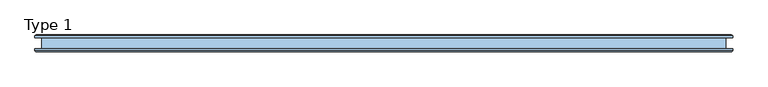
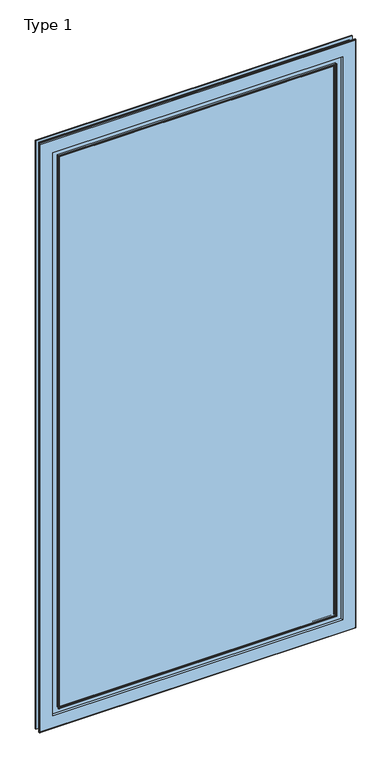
"""IFC4 building model written with IfcOpenShell, lengths in millimetres: window geometry, ETEM_ES70_Quadruple_Fly Screen_Lift_Sliding : Type 1."""

import ifcopenshell
import ifcopenshell.guid

model = None  # the IFC model being written
_history = None  # IfcOwnerHistory: only IFC2X3 demands one
_inside = {}  # id of a spatial element -> (the spatial element, [elements in it])
_under = {}  # id of a project, library or spatial element -> (it, [spatial elements below it])
_declared = {}  # id of a project -> (the project, [libraries it declares])
_typed = {}  # id of a type object -> (the type object, [elements of that type])
_made_of = {}  # id of a material, layer set ... -> (it, [elements and type objects made of it])


def new_model(schema):
    """Start an empty IFC model of exactly this schema.

    Asked for "IFC4X3", IfcOpenShell would pick the latest addendum, in which some entities
    have other attributes; the version numbers below select the first issue.
    IFC2X3 requires an IfcOwnerHistory on every rooted entity: one is made here for all.
    """
    global model, _history
    if schema == "IFC4X3":
        model = ifcopenshell.file(schema_version=(4, 3, 0, 0))
    else:
        model = ifcopenshell.file(schema=schema)
    _inside.clear()
    _under.clear()
    _declared.clear()
    _typed.clear()
    _made_of.clear()
    _history = None
    if model.schema == "IFC2X3":
        org = make("IfcOrganization", Name="unknown")
        user = make(
            "IfcPersonAndOrganization",
            ThePerson=make("IfcPerson", FamilyName="unknown"),
            TheOrganization=org,
        )
        app = make(
            "IfcApplication",
            ApplicationDeveloper=org,
            Version="unknown",
            ApplicationFullName="unknown",
            ApplicationIdentifier="unknown",
        )
        _history = make(
            "IfcOwnerHistory",
            OwningUser=user,
            OwningApplication=app,
            ChangeAction="ADDED",
            CreationDate=0,
        )
    return model


def make(cls, **values):
    """One entity of the class cls with the attributes given. An attribute that is None is left unset."""
    return model.create_entity(
        cls, **{name: value for name, value in values.items() if value is not None}
    )


def rooted(cls, **values):
    """An entity with a GlobalId (a new one), such as an element, a storey or a relation."""
    return make(cls, GlobalId=ifcopenshell.guid.new(), OwnerHistory=_history, **values)


def si_unit(unit_type, name, prefix=None):
    """IfcSIUnit, for example si_unit("LENGTHUNIT", "METRE", prefix="MILLI")."""
    return make("IfcSIUnit", UnitType=unit_type, Prefix=prefix, Name=name)


def assignment(units):
    """IfcUnitAssignment: the units of a project."""
    return None if units is None else make("IfcUnitAssignment", Units=units)


def point(xyz):
    """IfcCartesianPoint."""
    return None if xyz is None else make("IfcCartesianPoint", Coordinates=xyz)


def direction(xyz):
    """IfcDirection."""
    return None if xyz is None else make("IfcDirection", DirectionRatios=xyz)


def frame(location, z_axis=None, x_axis=None):
    """IfcAxis2Placement3D, a coordinate frame: its origin and axes. An axis left out is left unset."""
    return make(
        "IfcAxis2Placement3D",
        Location=point(location),
        Axis=direction(z_axis),
        RefDirection=direction(x_axis),
    )


def origin():
    """The frame at (0, 0, 0) with its axes left unset."""
    return frame((0.0, 0.0, 0.0))


def place(relative_to, where):
    """IfcLocalPlacement: puts the frame where relative to a parent placement (None: the world)."""
    return make(
        "IfcLocalPlacement", PlacementRelTo=relative_to, RelativePlacement=where
    )


def context(
    kind, dimensions, precision=None, world=None, true_north=None, identifier=None
):
    """IfcGeometricRepresentationContext, for example the 3D "Model" context."""
    return make(
        "IfcGeometricRepresentationContext",
        ContextIdentifier=identifier,
        ContextType=kind,
        CoordinateSpaceDimension=dimensions,
        Precision=precision,
        WorldCoordinateSystem=world,
        TrueNorth=true_north,
    )


def project(units=None, contexts=None):
    """IfcProject with its units and contexts."""
    return rooted(
        "IfcProject",
        Name="project",
        RepresentationContexts=contexts,
        UnitsInContext=assignment(units),
    )


def spatial(cls, under=None, at=None, **own):
    """A site, building, storey or space (cls), placed at a placement, below another one or the project."""
    s = rooted(cls, ObjectPlacement=at, **own)
    if under is not None:
        _under.setdefault(under.id(), (under, []))[1].append(s)
    return s


def polyline(points):
    """IfcPolyline through the points."""
    return make("IfcPolyline", Points=[point(p) for p in points])


def ellipse_curve(where, semi_axis1, semi_axis2):
    """IfcEllipse in the frame where."""
    return make(
        "IfcEllipse", Position=where, SemiAxis1=semi_axis1, SemiAxis2=semi_axis2
    )


def outline(outer, holes=None, kind="AREA"):
    """IfcArbitraryClosedProfileDef: a profile drawn as a closed curve; with holes, ...WithVoids."""
    if holes is None:
        return make("IfcArbitraryClosedProfileDef", ProfileType=kind, OuterCurve=outer)
    return make(
        "IfcArbitraryProfileDefWithVoids",
        ProfileType=kind,
        OuterCurve=outer,
        InnerCurves=holes,
    )


def extrude(swept, where, along, depth):
    """IfcExtrudedAreaSolid: the profile swept, set in the frame where, extruded along a direction by depth."""
    return make(
        "IfcExtrudedAreaSolid",
        SweptArea=swept,
        Position=where,
        ExtrudedDirection=direction(along),
        Depth=depth,
    )


def shape(context_of_items, identifier, shape_type, items):
    """IfcShapeRepresentation: the items that make up one representation, for example the "Body"."""
    return make(
        "IfcShapeRepresentation",
        ContextOfItems=context_of_items,
        RepresentationIdentifier=identifier,
        RepresentationType=shape_type,
        Items=items,
    )


def source(mapping_origin, context_of_items, identifier, shape_type, items):
    """IfcRepresentationMap: a shape defined once, which mapped items show again and again."""
    return make(
        "IfcRepresentationMap",
        MappingOrigin=mapping_origin,
        MappedRepresentation=shape(context_of_items, identifier, shape_type, items),
    )


def transform(
    local_origin,
    x_axis=None,
    y_axis=None,
    z_axis=None,
    scale=None,
    scale2=None,
    scale3=None,
    uniform=True,
):
    """IfcCartesianTransformationOperator3D, or its non-uniform kind. x_axis, y_axis, z_axis: its Axis1, 2, 3."""
    if uniform:
        return make(
            "IfcCartesianTransformationOperator3D",
            Axis1=direction(x_axis),
            Axis2=direction(y_axis),
            LocalOrigin=point(local_origin),
            Scale=scale,
            Axis3=direction(z_axis),
        )
    return make(
        "IfcCartesianTransformationOperator3DnonUniform",
        Axis1=direction(x_axis),
        Axis2=direction(y_axis),
        LocalOrigin=point(local_origin),
        Scale=scale,
        Axis3=direction(z_axis),
        Scale2=scale2,
        Scale3=scale3,
    )


def mapped(mapping_source, mapping_target):
    """IfcMappedItem: shows the shape of a source again, moved by a transform."""
    return make(
        "IfcMappedItem", MappingSource=mapping_source, MappingTarget=mapping_target
    )


def made_of(thing, what):
    """Note that an element or type object is made of a material, layer set ...; save() writes the relation."""
    if what is not None:
        _made_of.setdefault(what.id(), (what, []))[1].append(thing)
    return thing


def element(
    cls,
    number,
    at=None,
    inside=None,
    cuts=None,
    type_object=None,
    material=None,
    context=None,
    identifier="Body",
    shape_type=None,
    held_by="IfcProductDefinitionShape",
    body=None,
    shapes=None,
    **own,
):
    """One element of the class cls, such as IfcWall. Its Tag is "e" and its number.

    at: its placement. inside: the storey or other place that contains it. cuts: it is an
    opening in that element (IfcRelVoidsElement). A single representation is given by context,
    identifier, shape_type and body (its items); several are given by shapes. held_by: the class
    of the entity that holds the representations. save() writes the other relations.
    """
    e = rooted(cls, Tag="e%d" % number, ObjectPlacement=at, **own)
    if body is not None:
        shapes = [shape(context, identifier, shape_type, body)]
    if shapes is not None:
        e.Representation = make(held_by, Representations=shapes)
    if inside is not None:
        _inside.setdefault(inside.id(), (inside, []))[1].append(e)
    if cuts is not None:
        rooted(
            "IfcRelVoidsElement", RelatingBuildingElement=cuts, RelatedOpeningElement=e
        )
    if type_object is not None:
        _typed.setdefault(type_object.id(), (type_object, []))[1].append(e)
    return made_of(e, material)


def aggregate(whole, parts):
    """IfcRelAggregates: a whole, such as a stair, and the parts it consists of."""
    return rooted("IfcRelAggregates", RelatingObject=whole, RelatedObjects=parts)


def save(model, path):
    """Write the relations noted so far, then the file.

    IfcRelAggregates (storeys below a building ...), IfcRelContainedInSpatialStructure (elements
    in a storey), IfcRelDefinesByType, IfcRelAssociatesMaterial and IfcRelDeclares: one each for
    every whole, place, type object, material and project.
    """
    for whole, parts in _under.values():
        aggregate(whole, parts)
    for where, things in _inside.values():
        rooted(
            "IfcRelContainedInSpatialStructure",
            RelatedElements=things,
            RelatingStructure=where,
        )
    for kind, things in _typed.values():
        rooted("IfcRelDefinesByType", RelatedObjects=things, RelatingType=kind)
    for what, things in _made_of.values():
        rooted("IfcRelAssociatesMaterial", RelatedObjects=things, RelatingMaterial=what)
    for by, libraries in _declared.values():
        rooted("IfcRelDeclares", RelatingContext=by, RelatedDefinitions=libraries)
    model.write(path)


def plane_surface(at):
    """IfcPlane: the flat surface through the origin of the frame at, square to its z axis."""
    return make("IfcPlane", Position=at)


def cylinder_surface(at, radius):
    """IfcCylindricalSurface: all points at the distance radius from the z axis of the frame at."""
    return make("IfcCylindricalSurface", Position=at, Radius=radius)


def revolved_surface(curve, axis_point, axis_direction):
    """IfcSurfaceOfRevolution: the curve turned about the line through axis_point along axis_direction."""
    return make(
        "IfcSurfaceOfRevolution",
        SweptCurve=make("IfcArbitraryOpenProfileDef", ProfileType="CURVE", Curve=curve),
        AxisPosition=make("IfcAxis1Placement", Location=point(axis_point), Axis=direction(axis_direction)),
    )


def advanced_brep(points, edges, surfaces, faces):
    """IfcAdvancedBrep: a solid bounded by faces that lie on surfaces and meet in shared edges.

    An edge is (start, end): straight between two places in points (the first is 0);
    or (start, end, curve); or (start, end, curve, False) where it runs against its curve.
    A face is (place in surfaces, loops), or (place, loops, False) where it looks against
    its surface's normal. A loop lists edges by number (the first is 1), with a minus sign
    where the edge is run from its end to its start. The first loop is the outer one.
    """
    corners = [point(p) for p in points]
    vertices = [make("IfcVertexPoint", VertexGeometry=c) for c in corners]
    made = []
    for start, end, *more in edges:
        made.append(
            make(
                "IfcEdgeCurve",
                EdgeStart=vertices[start],
                EdgeEnd=vertices[end],
                EdgeGeometry=more[0] if more else make("IfcPolyline", Points=[corners[start], corners[end]]),
                SameSense=more[1] if len(more) > 1 else True,
            )
        )
    hull = []
    for where, loops, *sense in faces:
        bounds = []
        for j, loop in enumerate(loops):
            ring = [make("IfcOrientedEdge", EdgeElement=made[abs(k) - 1], Orientation=k > 0) for k in loop]
            bounds.append(
                make(
                    "IfcFaceOuterBound" if j == 0 else "IfcFaceBound",
                    Bound=make("IfcEdgeLoop", EdgeList=ring),
                    Orientation=True,
                )
            )
        hull.append(make("IfcAdvancedFace", Bounds=bounds, FaceSurface=surfaces[where], SameSense=sense[0] if sense else True))
    return make("IfcAdvancedBrep", Outer=make("IfcClosedShell", CfsFaces=hull))


def type_1_95501515(model_context):
    return source(origin(), model_context, "Body", "SolidModel", [
        advanced_brep(
        [(1149.0624998, 78.6507546, 2093.4), (1149.0624998, 75.6507546, 2093.4), (1149.0624998, 75.6507546, 106.6), (1149.0624998, 78.6507546, 106.6), (1147.2624998, 75.6507546, 104.8), (2095.2, 75.6507546, 104.8), (2095.2, 75.6507546, 2095.2), (1147.2624998, 75.6507546, 2095.2), (2093.4, 75.6507546, 2093.4), (2093.4, 75.6507546, 106.6), (2093.4, 78.6507546, 106.6), (2093.4, 78.6507546, 2093.4), (1156.4624998, 78.6507546, 2086.0), (2086.0, 78.6507546, 2086.0), (2086.0, 78.6507546, 114.0), (1156.4624998, 78.6507546, 114.0), (1147.3168213, 76.8482906, 2095.1456786), (1147.3168213, 76.8482906, 104.8543214), (1147.8624998, 77.3507546, 2094.6), (1147.8624998, 77.3507546, 105.4), (2095.1456786, 76.8482906, 104.8543214), (1147.8624998, 83.9507546, 2094.6), (1147.8624998, 83.9507546, 105.4), (2094.6, 77.3507546, 105.4), (1127.6624998, 83.9507546, 85.2), (2114.8, 83.9507546, 85.2), (2114.8, 83.9507546, 2114.8), (1127.6624998, 83.9507546, 2114.8), (2094.6, 83.9507546, 2094.6), (2094.6, 83.9507546, 105.4), (1127.6624998, 75.6507546, 2114.8), (1127.6624998, 75.6507546, 85.2), (1084.4624998, 75.6507546, 42.0), (2158.0, 75.6507546, 42.0), (2158.0, 75.6507546, 2158.0), (1084.4624998, 75.6507546, 2158.0), (2114.8, 75.6507546, 2114.8), (2114.8, 75.6507546, 85.2), (1081.4624998, 77.0050033, 2161.0), (1081.4624998, 77.0050033, 39.0), (1081.4624998, 80.1507546, 2161.0), (1081.4624998, 80.1507546, 39.0), (2161.0, 77.0050033, 39.0), (2161.0, 80.1507546, 2161.0), (2161.0, 80.1507546, 39.0), (1091.7624998, 80.1507546, 49.3), (2150.7, 80.1507546, 49.3), (2150.7, 80.1507546, 2150.7), (1091.7624998, 80.1507546, 2150.7), (1091.7624998, 97.1507546, 2150.7), (1091.7624998, 97.1507546, 49.3), (1081.4624998, 97.1507546, 39.0), (2161.0, 97.1507546, 39.0), (2161.0, 97.1507546, 2161.0), (1081.4624998, 97.1507546, 2161.0), (2150.7, 97.1507546, 2150.7), (2150.7, 97.1507546, 49.3), (1081.4624998, 100.296506, 2161.0), (1081.4624998, 100.296506, 39.0), (1084.4624998, 101.6507546, 2158.0), (1084.4624998, 101.6507546, 42.0), (2161.0, 100.296506, 39.0), (2158.0, 101.6507546, 2158.0), (2158.0, 101.6507546, 42.0), (1127.6624998, 101.6507546, 85.2), (2114.8, 101.6507546, 85.2), (2114.8, 101.6507546, 2114.8), (1127.6624998, 101.6507546, 2114.8), (1127.6624998, 93.3507546, 2114.8), (1127.6624998, 93.3507546, 85.2), (2114.8, 93.3507546, 2114.8), (2114.8, 93.3507546, 85.2), (1154.0624998, 93.3507546, 111.6), (2088.4, 93.3507546, 111.6), (2088.4, 93.3507546, 2088.4), (1154.0624998, 93.3507546, 2088.4), (1155.2624998, 94.5507546, 2087.2), (1155.2624998, 94.5507546, 112.8), (1155.2624998, 97.6507546, 2087.2), (1155.2624998, 97.6507546, 112.8), (2087.2, 94.5507546, 112.8), (1152.9566175, 100.4068112, 2089.5058824), (1152.9566175, 100.4068112, 110.4941176), (2087.2, 97.6507546, 112.8), (1153.1683822, 101.5879783, 2089.2941177), (1153.1683822, 101.5879783, 110.7058823), (2089.5058824, 100.4068112, 110.4941176), (1156.4624998, 97.6507546, 2086.0), (1156.4624998, 97.6507546, 114.0), (2089.2941177, 101.5879783, 110.7058823), (2086.0, 97.6507546, 114.0), (2095.1456786, 76.8482906, 2095.1456786), (2094.6, 77.3507546, 2094.6), (2161.0, 77.0050033, 2161.0), (2161.0, 100.296506, 2161.0), (2087.2, 94.5507546, 2087.2), (2087.2, 97.6507546, 2087.2), (2089.5058824, 100.4068112, 2089.5058824), (2089.2941177, 101.5879783, 2089.2941177), (2086.0, 97.6507546, 2086.0)],
        [
            (0, 1),
            (1, 2),
            (2, 3),
            (3, 0),
            (4, 5),
            (5, 6),
            (6, 7),
            (7, 4),
            (1, 8),
            (8, 9),
            (9, 2),
            (9, 10),
            (10, 3),
            (10, 11),
            (11, 0),
            (12, 13),
            (13, 14),
            (14, 15),
            (15, 12),
            (7, 16, ellipse_curve(frame((1147.2624998, 76.2507546, 2095.2), z_axis=(-0.7071067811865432, 0.0, -0.7071067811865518), x_axis=(-0.7071067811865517, 0.0, 0.7071067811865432)), 0.8485281, 0.6)),
            (16, 17),
            (17, 4, ellipse_curve(frame((1147.2624998, 76.2507546, 104.8), z_axis=(-0.7071067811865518, 0.0, 0.7071067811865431), x_axis=(0.707106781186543, 0.0, 0.7071067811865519)), 0.8485281, 0.6)),
            (16, 18, ellipse_curve(frame((1147.3624998, 77.3507546, 2095.1), z_axis=(0.7071067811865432, 0.0, 0.7071067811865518), x_axis=(0.7071067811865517, 0.0, -0.7071067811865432)), 0.7071068, 0.5)),
            (18, 19),
            (19, 17, ellipse_curve(frame((1147.3624998, 77.3507546, 104.9), z_axis=(0.7071067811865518, 0.0, -0.7071067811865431), x_axis=(-0.707106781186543, 0.0, -0.7071067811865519)), 0.7071068, 0.5)),
            (17, 20),
            (20, 5, ellipse_curve(frame((2095.2, 76.2507546, 104.8), z_axis=(-0.7071067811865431, 0.0, -0.707106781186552), x_axis=(-0.7071067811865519, 0.0, 0.7071067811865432)), 0.8485281, 0.6)),
            (18, 21),
            (21, 22),
            (22, 19),
            (19, 23),
            (23, 20, ellipse_curve(frame((2095.1, 77.3507546, 104.9), z_axis=(0.7071067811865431, 0.0, 0.707106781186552), x_axis=(0.7071067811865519, 0.0, -0.7071067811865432)), 0.7071068, 0.5)),
            (24, 25),
            (25, 26),
            (26, 27),
            (27, 24),
            (21, 28),
            (28, 29),
            (29, 22),
            (29, 23),
            (27, 30),
            (30, 31),
            (31, 24),
            (32, 33),
            (33, 34),
            (34, 35),
            (35, 32),
            (30, 36),
            (36, 37),
            (37, 31),
            (37, 25),
            (35, 38, ellipse_curve(frame((1084.4624998, 79.6507546, 2158.0), z_axis=(-0.7071067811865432, 0.0, -0.7071067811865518), x_axis=(-0.7071067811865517, 0.0, 0.7071067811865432)), 5.6568542, 4.0)),
            (38, 39),
            (39, 32, ellipse_curve(frame((1084.4624998, 79.6507546, 42.0), z_axis=(-0.7071067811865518, 0.0, 0.7071067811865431), x_axis=(0.707106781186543, 0.0, 0.7071067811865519)), 5.6568542, 4.0)),
            (38, 40),
            (40, 41),
            (41, 39),
            (39, 42),
            (42, 33, ellipse_curve(frame((2158.0, 79.6507546, 42.0), z_axis=(-0.7071067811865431, 0.0, -0.707106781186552), x_axis=(-0.7071067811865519, 0.0, 0.7071067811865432)), 5.6568542, 4.0)),
            (40, 43),
            (43, 44),
            (44, 41),
            (45, 46),
            (46, 47),
            (47, 48),
            (48, 45),
            (44, 42),
            (48, 49),
            (49, 50),
            (50, 45),
            (51, 52),
            (52, 53),
            (53, 54),
            (54, 51),
            (49, 55),
            (55, 56),
            (56, 50),
            (56, 46),
            (54, 57),
            (57, 58),
            (58, 51),
            (57, 59, ellipse_curve(frame((1084.4624998, 97.6507546, 2158.0), z_axis=(-0.7071067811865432, 0.0, -0.7071067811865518), x_axis=(-0.7071067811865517, 0.0, 0.7071067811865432)), 5.6568542, 4.0)),
            (59, 60),
            (60, 58, ellipse_curve(frame((1084.4624998, 97.6507546, 42.0), z_axis=(-0.7071067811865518, 0.0, 0.7071067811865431), x_axis=(0.707106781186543, 0.0, 0.7071067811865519)), 5.6568542, 4.0)),
            (58, 61),
            (61, 52),
            (59, 62),
            (62, 63),
            (63, 60),
            (64, 65),
            (65, 66),
            (66, 67),
            (67, 64),
            (63, 61, ellipse_curve(frame((2158.0, 97.6507546, 42.0), z_axis=(-0.7071067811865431, 0.0, -0.707106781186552), x_axis=(-0.7071067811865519, 0.0, 0.7071067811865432)), 5.6568542, 4.0)),
            (67, 68),
            (68, 69),
            (69, 64),
            (68, 70),
            (70, 71),
            (71, 69),
            (72, 73),
            (73, 74),
            (74, 75),
            (75, 72),
            (71, 65),
            (75, 76, ellipse_curve(frame((1154.0624998, 94.5507546, 2088.4), z_axis=(0.7071067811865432, 0.0, 0.7071067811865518), x_axis=(0.7071067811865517, 0.0, -0.7071067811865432)), 1.6970563, 1.2)),
            (76, 77),
            (77, 72, ellipse_curve(frame((1154.0624998, 94.5507546, 111.6), z_axis=(0.7071067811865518, 0.0, -0.7071067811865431), x_axis=(-0.707106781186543, 0.0, -0.7071067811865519)), 1.6970563, 1.2)),
            (76, 78),
            (78, 79),
            (79, 77),
            (77, 80),
            (80, 73, ellipse_curve(frame((2088.4, 94.5507546, 111.6), z_axis=(0.7071067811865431, 0.0, 0.707106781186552), x_axis=(0.7071067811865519, 0.0, -0.7071067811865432)), 1.6970563, 1.2)),
            (78, 81, ellipse_curve(frame((1152.4624998, 97.6507546, 2090.0), z_axis=(0.7071067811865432, 0.0, 0.7071067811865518), x_axis=(0.7071067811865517, 0.0, -0.7071067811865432)), 3.959798, 2.8)),
            (81, 82),
            (82, 79, ellipse_curve(frame((1152.4624998, 97.6507546, 110.0), z_axis=(0.7071067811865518, 0.0, -0.7071067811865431), x_axis=(-0.707106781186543, 0.0, -0.7071067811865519)), 3.959798, 2.8)),
            (79, 83),
            (83, 80),
            (81, 84, ellipse_curve(frame((1153.0624998, 100.9973947, 2089.4), z_axis=(-0.7071067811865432, 0.0, -0.7071067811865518), x_axis=(-0.7071067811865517, 0.0, 0.7071067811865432)), 0.8485281, 0.6)),
            (84, 85),
            (85, 82, ellipse_curve(frame((1153.0624998, 100.9973947, 110.6), z_axis=(-0.7071067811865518, 0.0, 0.7071067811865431), x_axis=(0.707106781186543, 0.0, 0.7071067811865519)), 0.8485281, 0.6)),
            (82, 86),
            (86, 83, ellipse_curve(frame((2090.0, 97.6507546, 110.0), z_axis=(0.7071067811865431, 0.0, 0.707106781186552), x_axis=(0.7071067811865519, 0.0, -0.7071067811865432)), 3.959798, 2.8)),
            (84, 87, ellipse_curve(frame((1152.4624998, 97.6507546, 2090.0), z_axis=(-0.7071067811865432, 0.0, -0.7071067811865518), x_axis=(-0.7071067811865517, 0.0, 0.7071067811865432)), 5.6568542, 4.0)),
            (87, 88),
            (88, 85, ellipse_curve(frame((1152.4624998, 97.6507546, 110.0), z_axis=(-0.7071067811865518, 0.0, 0.7071067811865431), x_axis=(0.707106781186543, 0.0, 0.7071067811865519)), 5.6568542, 4.0)),
            (85, 89),
            (89, 86, ellipse_curve(frame((2089.4, 100.9973947, 110.6), z_axis=(-0.7071067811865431, 0.0, -0.707106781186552), x_axis=(-0.7071067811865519, 0.0, 0.7071067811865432)), 0.8485281, 0.6)),
            (87, 12),
            (15, 88),
            (88, 90),
            (90, 89, ellipse_curve(frame((2090.0, 97.6507546, 110.0), z_axis=(-0.7071067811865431, 0.0, -0.707106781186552), x_axis=(-0.7071067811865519, 0.0, 0.7071067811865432)), 5.6568542, 4.0)),
            (14, 90),
            (8, 11),
            (20, 91),
            (91, 6, ellipse_curve(frame((2095.2, 76.2507546, 2095.2), z_axis=(0.7071067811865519, 0.0, -0.7071067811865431), x_axis=(-0.707106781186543, 0.0, -0.707106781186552)), 0.8485281, 0.6)),
            (23, 92),
            (92, 91, ellipse_curve(frame((2095.1, 77.3507546, 2095.1), z_axis=(-0.7071067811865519, 0.0, 0.7071067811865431), x_axis=(0.707106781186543, 0.0, 0.707106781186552)), 0.7071068, 0.5)),
            (28, 92),
            (36, 26),
            (42, 93),
            (93, 34, ellipse_curve(frame((2158.0, 79.6507546, 2158.0), z_axis=(0.7071067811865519, 0.0, -0.7071067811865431), x_axis=(-0.707106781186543, 0.0, -0.707106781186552)), 5.6568542, 4.0)),
            (43, 93),
            (55, 47),
            (61, 94),
            (94, 53),
            (62, 94, ellipse_curve(frame((2158.0, 97.6507546, 2158.0), z_axis=(0.7071067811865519, 0.0, -0.7071067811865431), x_axis=(-0.707106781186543, 0.0, -0.707106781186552)), 5.6568542, 4.0)),
            (70, 66),
            (80, 95),
            (95, 74, ellipse_curve(frame((2088.4, 94.5507546, 2088.4), z_axis=(-0.7071067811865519, 0.0, 0.7071067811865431), x_axis=(0.707106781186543, 0.0, 0.707106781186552)), 1.6970563, 1.2)),
            (83, 96),
            (96, 95),
            (86, 97),
            (97, 96, ellipse_curve(frame((2090.0, 97.6507546, 2090.0), z_axis=(-0.7071067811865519, 0.0, 0.7071067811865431), x_axis=(0.707106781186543, 0.0, 0.707106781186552)), 3.959798, 2.8)),
            (89, 98),
            (98, 97, ellipse_curve(frame((2089.4, 100.9973947, 2089.4), z_axis=(0.7071067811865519, 0.0, -0.7071067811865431), x_axis=(-0.707106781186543, 0.0, -0.707106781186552)), 0.8485281, 0.6)),
            (90, 99),
            (99, 98, ellipse_curve(frame((2090.0, 97.6507546, 2090.0), z_axis=(0.7071067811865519, 0.0, -0.7071067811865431), x_axis=(-0.707106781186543, 0.0, -0.707106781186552)), 5.6568542, 4.0)),
            (13, 99),
            (91, 16),
            (92, 18),
            (93, 38),
            (94, 57),
            (95, 76),
            (96, 78),
            (97, 81),
            (98, 84),
            (99, 87),
        ],
        [
            plane_surface(frame((1149.0624998, 75.6507546, 2093.4), z_axis=(1.0, 0.0, 0.0), x_axis=(0.0, 0.0, -1.0))),
            plane_surface(frame((2095.2, 75.6507546, 2095.2), z_axis=(0.0, -1.0, 0.0), x_axis=(-1.0, 0.0, 0.0))),
            plane_surface(frame((1149.0624998, 75.6507546, 106.6), z_axis=(0.0, 0.0, 1.0), x_axis=(1.0, 0.0, 0.0))),
            plane_surface(frame((2093.4, 78.6507546, 2093.4), z_axis=(0.0, -1.0, 0.0), x_axis=(-1.0, 0.0, 0.0))),
            cylinder_surface(frame((1147.2624998, 76.2507546, 2161.0), z_axis=(0.0, 0.0, 1.0), x_axis=(-1.0, 0.0, 0.0)), 0.6),
            revolved_surface(polyline([(1146.8624998, 77.3507546, 104.39999998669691), (1146.8624998, 77.3507546, 2095.600000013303)]), (1147.3624998, 77.3507546, 2161.0), (0.0, 0.0, -1.0)),
            cylinder_surface(frame((1081.4624998, 76.2507546, 104.8), z_axis=(-1.0, 0.0, 0.0), x_axis=(0.0, 0.0, -1.0)), 0.6),
            plane_surface(frame((1147.8624998, 83.9507546, 2094.6), z_axis=(-1.0, 0.0, 0.0), x_axis=(0.0, 0.0, -1.0))),
            revolved_surface(polyline([(2095.600000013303, 77.3507546, 104.4), (1146.8624997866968, 77.3507546, 104.4)]), (1081.4624998, 77.3507546, 104.9), (1.0, 0.0, 0.0)),
            plane_surface(frame((2114.8, 83.9507546, 2114.8), z_axis=(0.0, -1.0, 0.0), x_axis=(-1.0, 0.0, 0.0))),
            plane_surface(frame((1147.8624998, 83.9507546, 105.4), z_axis=(0.0, 0.0, -1.0), x_axis=(1.0, 0.0, 0.0))),
            plane_surface(frame((1127.6624998, 75.6507546, 2114.8), z_axis=(1.0, 0.0, 0.0), x_axis=(0.0, 0.0, -1.0))),
            plane_surface(frame((2158.0, 75.6507546, 2158.0), z_axis=(0.0, -1.0, 0.0), x_axis=(-1.0, 0.0, 0.0))),
            plane_surface(frame((1127.6624998, 75.6507546, 85.2), z_axis=(0.0, 0.0, 1.0), x_axis=(1.0, 0.0, 0.0))),
            cylinder_surface(frame((1084.4624998, 79.6507546, 2161.0), z_axis=(0.0, 0.0, 1.0), x_axis=(-1.0, 0.0, 0.0)), 4.0),
            plane_surface(frame((1081.4624998, 80.1507546, 2161.0), z_axis=(-1.0, 0.0, 0.0), x_axis=(0.0, 0.0, -1.0))),
            cylinder_surface(frame((1081.4624998, 79.6507546, 42.0), z_axis=(-1.0, 0.0, 0.0), x_axis=(0.0, 0.0, -1.0)), 4.0),
            plane_surface(frame((2150.7, 80.1507546, 2150.7), z_axis=(0.0, 1.0, 0.0), x_axis=(-1.0, 0.0, 0.0))),
            plane_surface(frame((1081.4624998, 80.1507546, 39.0), z_axis=(0.0, 0.0, -1.0), x_axis=(1.0, 0.0, 0.0))),
            plane_surface(frame((1091.7624998, 97.1507546, 2150.7), z_axis=(-1.0, 0.0, 0.0), x_axis=(0.0, 0.0, -1.0))),
            plane_surface(frame((2161.0, 97.1507546, 2161.0), z_axis=(0.0, -1.0, 0.0), x_axis=(-1.0, 0.0, 0.0))),
            plane_surface(frame((1091.7624998, 97.1507546, 49.3), z_axis=(0.0, 0.0, -1.0), x_axis=(1.0, 0.0, 0.0))),
            plane_surface(frame((1081.4624998, 100.296506, 2161.0), z_axis=(-1.0, 0.0, 0.0), x_axis=(0.0, 0.0, -1.0))),
            cylinder_surface(frame((1084.4624998, 97.6507546, 2161.0), z_axis=(0.0, 0.0, 1.0), x_axis=(-1.0, 0.0, 0.0)), 4.0),
            plane_surface(frame((1081.4624998, 100.296506, 39.0), z_axis=(0.0, 0.0, -1.0), x_axis=(1.0, 0.0, 0.0))),
            plane_surface(frame((2114.8, 101.6507546, 2114.8), z_axis=(0.0, 1.0, 0.0), x_axis=(-1.0, 0.0, 0.0))),
            cylinder_surface(frame((1081.4624998, 97.6507546, 42.0), z_axis=(-1.0, 0.0, 0.0), x_axis=(0.0, 0.0, -1.0)), 4.0),
            plane_surface(frame((1127.6624998, 93.3507546, 2114.8), z_axis=(1.0, 0.0, 0.0), x_axis=(0.0, 0.0, -1.0))),
            plane_surface(frame((2088.4, 93.3507546, 2088.4), z_axis=(0.0, 1.0, 0.0), x_axis=(-1.0, 0.0, 0.0))),
            plane_surface(frame((1127.6624998, 93.3507546, 85.2), z_axis=(0.0, 0.0, 1.0), x_axis=(1.0, 0.0, 0.0))),
            revolved_surface(polyline([(1152.8624998, 94.5507546, 110.39999998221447), (1152.8624998, 94.5507546, 2089.6000000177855)]), (1154.0624998, 94.5507546, 2161.0), (0.0, 0.0, -1.0)),
            plane_surface(frame((1155.2624998, 97.6507546, 2087.2), z_axis=(-1.0, 0.0, 0.0), x_axis=(0.0, 0.0, -1.0))),
            revolved_surface(polyline([(2089.6000000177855, 94.5507546, 110.39999999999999), (1152.8624997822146, 94.5507546, 110.39999999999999)]), (1081.4624998, 94.5507546, 111.6), (1.0, 0.0, 0.0)),
            revolved_surface(polyline([(1149.6624998, 97.6507546, 107.19999998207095), (1149.6624998, 97.6507546, 2092.800000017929)]), (1152.4624998, 97.6507546, 2161.0), (0.0, 0.0, -1.0)),
            plane_surface(frame((1155.2624998, 97.6507546, 112.8), z_axis=(0.0, 0.0, -1.0), x_axis=(1.0, 0.0, 0.0))),
            cylinder_surface(frame((1153.0624998, 100.9973947, 2161.0), z_axis=(0.0, 0.0, 1.0), x_axis=(-1.0, 0.0, 0.0)), 0.6),
            revolved_surface(polyline([(2092.800000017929, 97.6507546, 107.2), (1149.662499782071, 97.6507546, 107.2)]), (1081.4624998, 97.6507546, 110.0), (1.0, 0.0, 0.0)),
            cylinder_surface(frame((1152.4624998, 97.6507546, 2161.0), z_axis=(0.0, 0.0, 1.0), x_axis=(-1.0, 0.0, 0.0)), 4.0),
            cylinder_surface(frame((1081.4624998, 100.9973947, 110.6), z_axis=(-1.0, 0.0, 0.0), x_axis=(0.0, 0.0, -1.0)), 0.6),
            plane_surface(frame((1156.4624998, 78.6507546, 2086.0), z_axis=(1.0, 0.0, 0.0), x_axis=(0.0, 0.0, -1.0))),
            cylinder_surface(frame((1081.4624998, 97.6507546, 110.0), z_axis=(-1.0, 0.0, 0.0), x_axis=(0.0, 0.0, -1.0)), 4.0),
            plane_surface(frame((1156.4624998, 78.6507546, 114.0), z_axis=(0.0, 0.0, 1.0), x_axis=(1.0, 0.0, 0.0))),
            plane_surface(frame((2093.4, 75.6507546, 106.6), z_axis=(-1.0, 0.0, 0.0), x_axis=(0.0, 0.0, 1.0))),
            cylinder_surface(frame((2095.2, 76.2507546, 39.0), z_axis=(0.0, 0.0, -1.0), x_axis=(1.0, 0.0, 0.0)), 0.6),
            revolved_surface(polyline([(2095.6, 77.3507546, 2095.600000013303), (2095.6, 77.3507546, 104.39999998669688)]), (2095.1, 77.3507546, 39.0), (0.0, 0.0, 1.0)),
            plane_surface(frame((2094.6, 83.9507546, 105.4), z_axis=(1.0, 0.0, 0.0), x_axis=(0.0, 0.0, 1.0))),
            plane_surface(frame((2114.8, 75.6507546, 85.2), z_axis=(-1.0, 0.0, 0.0), x_axis=(0.0, 0.0, 1.0))),
            cylinder_surface(frame((2158.0, 79.6507546, 39.0), z_axis=(0.0, 0.0, -1.0), x_axis=(1.0, 0.0, 0.0)), 4.0),
            plane_surface(frame((2161.0, 80.1507546, 39.0), z_axis=(1.0, 0.0, 0.0), x_axis=(0.0, 0.0, 1.0))),
            plane_surface(frame((2150.7, 97.1507546, 49.3), z_axis=(1.0, 0.0, 0.0), x_axis=(0.0, 0.0, 1.0))),
            plane_surface(frame((2161.0, 100.296506, 39.0), z_axis=(1.0, 0.0, 0.0), x_axis=(0.0, 0.0, 1.0))),
            cylinder_surface(frame((2158.0, 97.6507546, 39.0), z_axis=(0.0, 0.0, -1.0), x_axis=(1.0, 0.0, 0.0)), 4.0),
            plane_surface(frame((2114.8, 93.3507546, 85.2), z_axis=(-1.0, 0.0, 0.0), x_axis=(0.0, 0.0, 1.0))),
            revolved_surface(polyline([(2089.6, 94.5507546, 2089.6000000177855), (2089.6, 94.5507546, 110.39999998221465)]), (2088.4, 94.5507546, 39.0), (0.0, 0.0, 1.0)),
            plane_surface(frame((2087.2, 97.6507546, 112.8), z_axis=(1.0, 0.0, 0.0), x_axis=(0.0, 0.0, 1.0))),
            revolved_surface(polyline([(2092.8, 97.6507546, 2092.800000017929), (2092.8, 97.6507546, 107.19999998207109)]), (2090.0, 97.6507546, 39.0), (0.0, 0.0, 1.0)),
            cylinder_surface(frame((2089.4, 100.9973947, 39.0), z_axis=(0.0, 0.0, -1.0), x_axis=(1.0, 0.0, 0.0)), 0.6),
            cylinder_surface(frame((2090.0, 97.6507546, 39.0), z_axis=(0.0, 0.0, -1.0), x_axis=(1.0, 0.0, 0.0)), 4.0),
            plane_surface(frame((2086.0, 78.6507546, 114.0), z_axis=(-1.0, 0.0, 0.0), x_axis=(0.0, 0.0, 1.0))),
            plane_surface(frame((2093.4, 75.6507546, 2093.4), z_axis=(0.0, 0.0, -1.0), x_axis=(-1.0, 0.0, 0.0))),
            cylinder_surface(frame((2161.0, 76.2507546, 2095.2), z_axis=(1.0, 0.0, 0.0), x_axis=(0.0, 0.0, 1.0)), 0.6),
            revolved_surface(polyline([(1146.8624997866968, 77.3507546, 2095.6), (2095.600000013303, 77.3507546, 2095.6)]), (2161.0, 77.3507546, 2095.1), (-1.0, 0.0, 0.0)),
            plane_surface(frame((2094.6, 83.9507546, 2094.6), z_axis=(0.0, 0.0, 1.0), x_axis=(-1.0, 0.0, 0.0))),
            plane_surface(frame((2114.8, 75.6507546, 2114.8), z_axis=(0.0, 0.0, -1.0), x_axis=(-1.0, 0.0, 0.0))),
            cylinder_surface(frame((2161.0, 79.6507546, 2158.0), z_axis=(1.0, 0.0, 0.0), x_axis=(0.0, 0.0, 1.0)), 4.0),
            plane_surface(frame((2161.0, 80.1507546, 2161.0), z_axis=(0.0, 0.0, 1.0), x_axis=(-1.0, 0.0, 0.0))),
            plane_surface(frame((2150.7, 97.1507546, 2150.7), z_axis=(0.0, 0.0, 1.0), x_axis=(-1.0, 0.0, 0.0))),
            plane_surface(frame((2161.0, 100.296506, 2161.0), z_axis=(0.0, 0.0, 1.0), x_axis=(-1.0, 0.0, 0.0))),
            cylinder_surface(frame((2161.0, 97.6507546, 2158.0), z_axis=(1.0, 0.0, 0.0), x_axis=(0.0, 0.0, 1.0)), 4.0),
            plane_surface(frame((2114.8, 93.3507546, 2114.8), z_axis=(0.0, 0.0, -1.0), x_axis=(-1.0, 0.0, 0.0))),
            revolved_surface(polyline([(1152.8624997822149, 94.5507546, 2089.6), (2089.6000000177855, 94.5507546, 2089.6)]), (2161.0, 94.5507546, 2088.4), (-1.0, 0.0, 0.0)),
            plane_surface(frame((2087.2, 97.6507546, 2087.2), z_axis=(0.0, 0.0, 1.0), x_axis=(-1.0, 0.0, 0.0))),
            revolved_surface(polyline([(1149.6624997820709, 97.6507546, 2092.8), (2092.800000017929, 97.6507546, 2092.8)]), (2161.0, 97.6507546, 2090.0), (-1.0, 0.0, 0.0)),
            cylinder_surface(frame((2161.0, 100.9973947, 2089.4), z_axis=(1.0, 0.0, 0.0), x_axis=(0.0, 0.0, 1.0)), 0.6),
            cylinder_surface(frame((2161.0, 97.6507546, 2090.0), z_axis=(1.0, 0.0, 0.0), x_axis=(0.0, 0.0, 1.0)), 4.0),
            plane_surface(frame((2086.0, 78.6507546, 2086.0), z_axis=(0.0, 0.0, -1.0), x_axis=(-1.0, 0.0, 0.0))),
        ],
        [
            (0, [[1, 2, 3, 4]]),
            (1, [[5, 6, 7, 8], [9, 10, 11, -2]]),
            (2, [[-3, -11, 12, 13]]),
            (3, [[-13, 14, 15, -4], [16, 17, 18, 19]]),
            (4, [[20, 21, 22, -8]]),
            (5, [[23, 24, 25, -21]]),
            (6, [[-22, 26, 27, -5]]),
            (7, [[28, 29, 30, -24]]),
            (8, [[-25, 31, 32, -26]]),
            (9, [[33, 34, 35, 36], [37, 38, 39, -29]]),
            (10, [[-30, -39, 40, -31]]),
            (11, [[41, 42, 43, -36]]),
            (12, [[44, 45, 46, 47], [48, 49, 50, -42]]),
            (13, [[-43, -50, 51, -33]]),
            (14, [[52, 53, 54, -47]]),
            (15, [[55, 56, 57, -53]]),
            (16, [[-54, 58, 59, -44]]),
            (17, [[60, 61, 62, -56], [63, 64, 65, 66]]),
            (18, [[-57, -62, 67, -58]]),
            (19, [[68, 69, 70, -66]]),
            (20, [[71, 72, 73, 74], [75, 76, 77, -69]]),
            (21, [[-70, -77, 78, -63]]),
            (22, [[79, 80, 81, -74]]),
            (23, [[82, 83, 84, -80]]),
            (24, [[-81, 85, 86, -71]]),
            (25, [[87, 88, 89, -83], [90, 91, 92, 93]]),
            (26, [[-84, -89, 94, -85]]),
            (27, [[95, 96, 97, -93]]),
            (28, [[98, 99, 100, -96], [101, 102, 103, 104]]),
            (29, [[-97, -100, 105, -90]]),
            (30, [[106, 107, 108, -104]]),
            (31, [[109, 110, 111, -107]]),
            (32, [[-108, 112, 113, -101]]),
            (33, [[114, 115, 116, -110]]),
            (34, [[-111, 117, 118, -112]]),
            (35, [[119, 120, 121, -115]]),
            (36, [[-116, 122, 123, -117]]),
            (37, [[124, 125, 126, -120]]),
            (38, [[-121, 127, 128, -122]]),
            (39, [[129, -19, 130, -125]]),
            (40, [[-126, 131, 132, -127]]),
            (41, [[-130, -18, 133, -131]]),
            (42, [[-12, -10, 134, -14]]),
            (43, [[-27, 135, 136, -6]]),
            (44, [[-32, 137, 138, -135]]),
            (45, [[-40, -38, 139, -137]]),
            (46, [[-51, -49, 140, -34]]),
            (47, [[-59, 141, 142, -45]]),
            (48, [[-67, -61, 143, -141]]),
            (49, [[-78, -76, 144, -64]]),
            (50, [[-86, 145, 146, -72]]),
            (51, [[-94, -88, 147, -145]]),
            (52, [[-105, -99, 148, -91]]),
            (53, [[-113, 149, 150, -102]]),
            (54, [[-118, 151, 152, -149]]),
            (55, [[-123, 153, 154, -151]]),
            (56, [[-128, 155, 156, -153]]),
            (57, [[-132, 157, 158, -155]]),
            (58, [[-133, -17, 159, -157]]),
            (59, [[-134, -9, -1, -15]]),
            (60, [[-136, 160, -20, -7]]),
            (61, [[-138, 161, -23, -160]]),
            (62, [[-139, -37, -28, -161]]),
            (63, [[-140, -48, -41, -35]]),
            (64, [[-142, 162, -52, -46]]),
            (65, [[-143, -60, -55, -162]]),
            (66, [[-144, -75, -68, -65]]),
            (67, [[-146, 163, -79, -73]]),
            (68, [[-147, -87, -82, -163]]),
            (69, [[-148, -98, -95, -92]]),
            (70, [[-150, 164, -106, -103]]),
            (71, [[-152, 165, -109, -164]]),
            (72, [[-154, 166, -114, -165]]),
            (73, [[-156, 167, -119, -166]]),
            (74, [[-158, 168, -124, -167]]),
            (75, [[-159, -16, -129, -168]]),
        ],
    ),
        extrude(outline(polyline([(1152.4624998, 78.6007546), (2090.0, 78.6007546), (2090.0, 77.6007546), (1152.4624998, 77.6007546), (1152.4624998, 78.6007546)])), frame((0.0, 0.0, 110.0), z_axis=(0.0, 0.0, 1.0), x_axis=(1.0, 0.0, 0.0)), (0.0, 0.0, 1.0), 1980.0),
    ])


if __name__ == "__main__":
    model = new_model("IFC4")
    model_context = context("Model", 3, world=origin())
    ifc_project = project(units=[si_unit("LENGTHUNIT", "METRE", prefix="MILLI")], contexts=[model_context])
    site = spatial("IfcSite", under=ifc_project)
    building = spatial("IfcBuilding", under=site)
    placement = place(None, origin())
    type_1_shape = type_1_95501515(model_context)
    element("IfcWindow", 1, ObjectType="ETEM_ES70_Quadruple_Fly Screen_Lift_Sliding : Type 1", at=placement, inside=building, context=model_context, shape_type="MappedRepresentation", body=[
        mapped(type_1_shape, transform((0.0, 0.0, 0.0), x_axis=(1.0, 0.0, 0.0), y_axis=(0.0, 1.0, 0.0), z_axis=(0.0, 0.0, 1.0))),
    ])
    save(model, "model.ifc")
